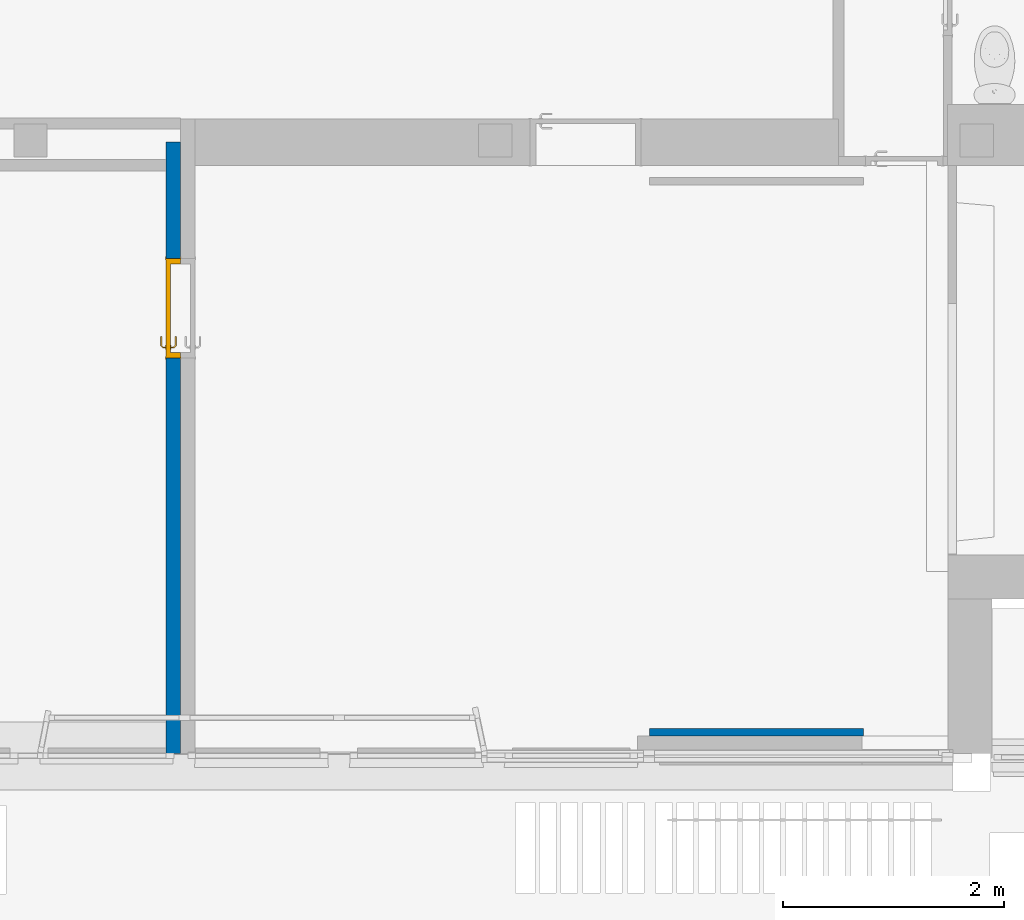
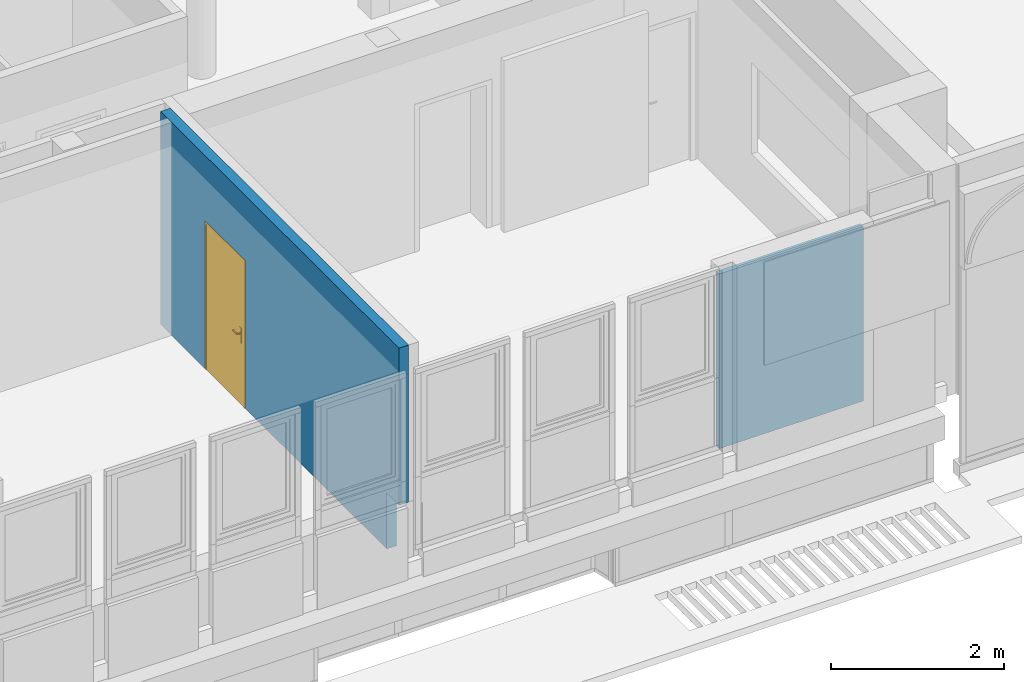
# One storey, part 45 of 97: 2 walls, 1 door, 1 opening.
"""IFC4 building model written with IfcOpenShell, lengths in metres."""

from ifc_helpers import new_model, entity, si_unit, converted_unit, derived_unit, direction, frame, origin, place, context, subcontext, project, spatial, indexed_curve, outline, extrude, polygons, source, transform, mapped, material, material_list, layer, layer_set, constituent, constituent_set, type_object, type_shapes, element, fill, save


model = new_model("IFC4")

# Units and contexts
model_context = context("Model", 3, precision=1e-05, world=origin(), true_north=direction((6.12303176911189e-17, 1.0)))
body_context = subcontext(model_context, "Body", "Model", "MODEL_VIEW")
ifc_project = project(units=[si_unit("LENGTHUNIT", "METRE"), si_unit("AREAUNIT", "SQUARE_METRE"), si_unit("VOLUMEUNIT", "CUBIC_METRE"), converted_unit("PLANEANGLEUNIT", "DEGREE", entity("IfcRatioMeasure", 0.0174532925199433), si_unit("PLANEANGLEUNIT", "RADIAN"), dimensions=[0, 0, 0, 0, 0, 0, 0]), si_unit("MASSUNIT", "GRAM", prefix="KILO"), derived_unit("MASSDENSITYUNIT", [(si_unit("MASSUNIT", "GRAM", prefix="KILO"), 1), (si_unit("LENGTHUNIT", "METRE"), -3)]), derived_unit("MOMENTOFINERTIAUNIT", [(si_unit("LENGTHUNIT", "METRE"), 4)]), si_unit("TIMEUNIT", "SECOND"), si_unit("FREQUENCYUNIT", "HERTZ"), si_unit("THERMODYNAMICTEMPERATUREUNIT", "DEGREE_CELSIUS"), derived_unit("THERMALTRANSMITTANCEUNIT", [(si_unit("MASSUNIT", "GRAM", prefix="KILO"), 1), (si_unit("THERMODYNAMICTEMPERATUREUNIT", "KELVIN"), -1), (si_unit("TIMEUNIT", "SECOND"), -3)]), derived_unit("VOLUMETRICFLOWRATEUNIT", [(si_unit("LENGTHUNIT", "METRE"), 3), (si_unit("TIMEUNIT", "SECOND"), -1)]), si_unit("ELECTRICCURRENTUNIT", "AMPERE"), si_unit("ELECTRICVOLTAGEUNIT", "VOLT"), si_unit("POWERUNIT", "WATT"), si_unit("FORCEUNIT", "NEWTON", prefix="KILO"), si_unit("ILLUMINANCEUNIT", "LUX"), si_unit("LUMINOUSFLUXUNIT", "LUMEN"), si_unit("LUMINOUSINTENSITYUNIT", "CANDELA"), derived_unit("USERDEFINED", [(si_unit("MASSUNIT", "GRAM", prefix="KILO"), -1), (si_unit("LENGTHUNIT", "METRE"), -2), (si_unit("TIMEUNIT", "SECOND"), 3), (si_unit("LUMINOUSFLUXUNIT", "LUMEN"), 1)]), derived_unit("LINEARVELOCITYUNIT", [(si_unit("LENGTHUNIT", "METRE"), 1), (si_unit("TIMEUNIT", "SECOND"), -1)]), si_unit("PRESSUREUNIT", "PASCAL"), derived_unit("USERDEFINED", [(si_unit("LENGTHUNIT", "METRE"), -2), (si_unit("MASSUNIT", "GRAM", prefix="KILO"), 1), (si_unit("TIMEUNIT", "SECOND"), -2)]), derived_unit("LINEARFORCEUNIT", [(si_unit("MASSUNIT", "GRAM", prefix="KILO"), 1), (si_unit("LENGTHUNIT", "METRE"), 1), (si_unit("TIMEUNIT", "SECOND"), -2), (si_unit("LENGTHUNIT", "METRE"), -1)]), derived_unit("PLANARFORCEUNIT", [(si_unit("MASSUNIT", "GRAM", prefix="KILO"), 1), (si_unit("LENGTHUNIT", "METRE"), 1), (si_unit("TIMEUNIT", "SECOND"), -2), (si_unit("LENGTHUNIT", "METRE"), -2)])], contexts=[model_context])

# Site, building, storey
site_placement = place(None, origin())
site = spatial("IfcSite", under=ifc_project, at=site_placement, Name="Default", CompositionType="ELEMENT")
building_placement = place(site_placement, origin())
building = spatial("IfcBuilding", under=site, at=building_placement, Name="HOTEL CONSULAIRE BOULOGNE SUR MER", CompositionType="ELEMENT")
storey_placement = place(building_placement, frame((0.0, 0.0, 3.62152697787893)))
storey = spatial("IfcBuildingStorey", under=building, at=storey_placement, Name="Niveau 1", CompositionType="ELEMENT", Elevation=3.62152697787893)

# Wall, opening, door
ifc_material_1 = material(Name="Mur par défaut", Category="Divers")
ifc_layer_1 = layer(ifc_material_1, 0.13, Name="Mur par défaut", Category="Divers")
ifc_layer_set_1 = layer_set([ifc_layer_1], Name="Mur de base:Générique - Int. 130 mm")
wall_type_1 = type_object("IfcWallType", Name="Mur de base:Générique - Int. 130 mm", PredefinedType="NOTDEFINED", material=ifc_layer_set_1)
wall_1_placement = place(storey_placement, frame((4.2635800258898, -24.0327611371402, 0.0), z_axis=(0.0, 0.0, 1.0), x_axis=(0.0, -1.0, 0.0)))
wall_1 = element("IfcWall", 1, at=wall_1_placement, inside=storey, type_object=wall_type_1, material=ifc_layer_set_1, Name="Mur de base:Générique - Int. 130 mm", ObjectType="Mur de base:Générique - Int. 130 mm", PredefinedType="NOTDEFINED", context=body_context, shape_type="Tessellation", body=[
    polygons([(1.049, -0.0650000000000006, 0.0), (0.0, -0.0650000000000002, 0.0), (0.0, 0.0649999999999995, 0.0), (1.049, 0.0649999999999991, 0.0), (5.52130596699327, -0.0650000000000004, 3.01021454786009), (0.257930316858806, -0.0650000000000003, 3.01021454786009), (0.157930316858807, -0.0650000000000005, 3.01021454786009), (0.0, -0.0650000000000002, 3.01021454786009), (1.049, -0.0650000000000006, 2.075), (1.949, -0.0650000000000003, 2.075), (1.949, -0.0650000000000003, 0.0), (5.23734358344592, -0.0650000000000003, 0.0), (5.23734358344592, -0.0650000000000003, 0.791612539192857), (5.52130596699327, -0.0650000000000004, 0.791612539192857), (0.0, 0.0650000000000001, 3.01021454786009), (5.52130596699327, 0.0649999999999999, 3.01021454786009), (5.52130596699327, 0.0649999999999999, 0.791612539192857), (5.23734358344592, 0.0649999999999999, 0.791612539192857), (5.23734358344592, 0.0649999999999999, 0.0), (1.949, 0.065, 0.0), (1.949, 0.065, 2.075), (1.049, 0.0649999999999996, 2.075)], [[[3, 4, 1, 2]], [[10, 9, 22, 21]], [[14, 13, 18, 17]], [[11, 20, 19, 12]], [[2, 1, 9, 10, 11, 12, 13, 14, 5, 6, 7, 8]], [[16, 17, 18, 19, 20, 21, 22, 4, 3, 15]], [[9, 1, 4, 22]], [[13, 12, 19, 18]], [[5, 14, 17, 16]], [[11, 10, 21, 20]], [[2, 8, 15, 3]], [[8, 7, 6, 5, 16, 15]]], closed=True),
])
opening_placement = place(wall_1_placement, frame((1.949, 0.0649999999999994, 0.0)))
opening = element("IfcOpeningElement", 2, at=opening_placement, cuts=wall_1, Name="Int. Simple:PP (0.83m x 2.04m):1", ObjectType="Opening", PredefinedType="OPENING", context=body_context, shape_type="SweptSolid", body=[
    extrude(outline(indexed_curve([(0.0, 0.9), (0.0, 0.0), (2.075, 0.0), (2.075, 0.9), (0.0, 0.9)], self_intersect=False)), frame((0.0, 0.0, 0.0), z_axis=(0.0, -1.0, 0.0), x_axis=(0.0, 0.0, 1.0)), (0.0, 0.0, 1.0), 0.13),
])
ifc_material_2 = material(Name="Finition Peinture - Blanc satiné", Category="Peinture")
ifc_constituent_1 = constituent(ifc_material_2, Name="Finition Peinture - Blanc satiné", Category="Matériaux")
ifc_material_3 = material(Name="Bois - Panneau de porte", Category="Bois")
ifc_constituent_2 = constituent(ifc_material_3, Name="Bois - Panneau de porte", Category="Matériaux")
ifc_material_4 = material(Name="Bois - Cadre de porte", Category="Bois")
ifc_constituent_3 = constituent(ifc_material_4, Name="Bois - Cadre de porte", Category="Matériaux")
ifc_constituent_set = constituent_set(constituents=[ifc_constituent_1, ifc_constituent_2, ifc_constituent_3], Name="MaterialConstituentSet")
ifc_material_list = material_list([ifc_material_3, ifc_material_2, ifc_material_4, ifc_material_4])
door_type = type_object("IfcDoorType", Name="Int. Simple:PP (0.83m x 2.04m)", OperationType="NOTDEFINED", PredefinedType="DOOR", material=ifc_material_list)
shared_shape = source(origin(), body_context, "Body", "Tessellation", [
    polygons([(0.895000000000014, -0.00500000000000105, 0.870000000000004), (0.895000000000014, -0.00500000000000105, 1.08), (0.885352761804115, -0.00500000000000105, 1.08399601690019), (0.875000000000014, -0.00500000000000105, 1.08535898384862), (0.864647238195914, -0.00500000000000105, 1.08399601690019), (0.855000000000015, -0.00500000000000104, 1.08), (0.855000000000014, -0.00500000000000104, 0.870000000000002), (0.864647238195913, -0.00500000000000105, 0.866003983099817), (0.875000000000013, -0.00500000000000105, 0.86464101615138), (0.885352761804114, -0.00500000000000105, 0.866003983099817), (0.895000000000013, -1.05748743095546e-15, 0.870000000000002), (0.885352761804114, -1.05748743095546e-15, 0.866003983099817), (0.875000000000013, -1.04902753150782e-15, 0.86464101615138), (0.864647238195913, -1.04902753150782e-15, 0.866003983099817), (0.855000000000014, -1.04056763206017e-15, 0.870000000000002), (0.855000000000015, -1.04056763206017e-15, 1.08), (0.864647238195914, -1.04902753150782e-15, 1.08399601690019), (0.875000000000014, -1.04902753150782e-15, 1.08535898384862), (0.885352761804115, -1.05748743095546e-15, 1.08399601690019), (0.895000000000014, -1.05748743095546e-15, 1.08)], [[[1, 2, 3, 4, 5, 6, 7, 8, 9, 10]], [[20, 11, 12, 13, 14, 15, 16, 17, 18, 19]], [[10, 12, 11, 1]], [[9, 13, 12, 10]], [[8, 14, 13, 9]], [[8, 7, 15, 14]], [[15, 7, 6, 16]], [[5, 17, 16, 6]], [[4, 18, 17, 5]], [[3, 19, 18, 4]], [[3, 2, 20, 19]], [[11, 20, 2, 1]]], closed=True),
    polygons([(0.855000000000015, 0.0399999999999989, 1.08), (0.855000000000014, 0.0399999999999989, 0.870000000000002), (0.864647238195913, 0.0399999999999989, 0.866003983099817), (0.875000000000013, 0.0399999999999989, 0.86464101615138), (0.885352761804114, 0.0399999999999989, 0.866003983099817), (0.895000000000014, 0.0399999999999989, 0.870000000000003), (0.895000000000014, 0.0399999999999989, 1.08), (0.885352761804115, 0.0399999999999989, 1.08399601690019), (0.875000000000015, 0.0399999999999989, 1.08535898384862), (0.864647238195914, 0.0399999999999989, 1.08399601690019), (0.855000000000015, 0.0449999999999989, 1.08), (0.864647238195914, 0.0449999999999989, 1.08399601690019), (0.875000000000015, 0.0449999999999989, 1.08535898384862), (0.885352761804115, 0.0449999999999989, 1.08399601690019), (0.895000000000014, 0.0449999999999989, 1.08), (0.895000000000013, 0.0449999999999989, 0.870000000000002), (0.885352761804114, 0.0449999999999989, 0.866003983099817), (0.875000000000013, 0.0449999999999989, 0.86464101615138), (0.864647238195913, 0.0449999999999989, 0.866003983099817), (0.855000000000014, 0.0449999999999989, 0.870000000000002)], [[[6, 7, 8, 9, 10, 1, 2, 3, 4, 5]], [[13, 14, 15, 16, 17, 18, 19, 20, 11, 12]], [[10, 12, 11, 1]], [[9, 13, 12, 10]], [[8, 14, 13, 9]], [[8, 7, 15, 14]], [[16, 15, 7, 6]], [[5, 17, 16, 6]], [[4, 18, 17, 5]], [[3, 19, 18, 4]], [[3, 2, 20, 19]], [[20, 2, 1, 11]]], closed=True),
    polygons([(0.881000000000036, -0.00500000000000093, 1.00699999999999), (0.881000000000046, -0.00500000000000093, 0.992999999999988), (0.877025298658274, -0.00500000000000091, 0.99221955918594), (0.872974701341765, -0.00500000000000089, 0.992219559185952), (0.868999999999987, -0.00500000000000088, 0.993000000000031), (0.868999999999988, -0.00500000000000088, 1.007), (0.872974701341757, -0.00500000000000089, 1.00778044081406), (0.877025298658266, -0.00500000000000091, 1.00778044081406), (0.868999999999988, -0.0276803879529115, 1.007), (0.872974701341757, -0.0293267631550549, 1.00778044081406), (0.877025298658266, -0.0310045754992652, 1.00778044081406), (0.881000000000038, -0.0326509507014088, 1.007), (0.868999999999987, -0.0276803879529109, 0.993000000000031), (0.881000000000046, -0.0326509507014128, 0.992999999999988), (0.877025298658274, -0.0310045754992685, 0.99221955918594), (0.872974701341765, -0.0293267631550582, 0.992219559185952), (0.85765222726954, -0.0390281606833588, 1.007), (0.859298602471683, -0.0430028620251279, 1.00778044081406), (0.860976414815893, -0.0470534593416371, 1.00778044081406), (0.862622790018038, -0.0510281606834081, 1.007), (0.857652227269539, -0.0390281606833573, 0.993000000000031), (0.862622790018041, -0.0510281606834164, 0.992999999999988), (0.860976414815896, -0.0470534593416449, 0.99221955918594), (0.859298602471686, -0.0430028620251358, 0.992219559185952), (0.774981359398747, -0.0510281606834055, 1.007), (0.774981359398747, -0.0470534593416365, 1.00778044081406), (0.774981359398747, -0.0430028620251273, 1.00778044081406), (0.774981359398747, -0.0390281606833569, 1.00699999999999), (0.774981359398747, -0.0390281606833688, 0.993000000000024), (0.774981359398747, -0.0430028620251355, 0.992219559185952), (0.774981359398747, -0.0470534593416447, 0.99221955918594), (0.774981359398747, -0.0510281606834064, 0.992999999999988), (0.822692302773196, -0.051028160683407, 1.007), (0.81713998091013, -0.045028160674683, 1.0078786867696), (0.816316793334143, -0.039028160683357, 1.007), (0.822692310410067, -0.0510281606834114, 0.992999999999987), (0.817139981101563, -0.0450281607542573, 0.992121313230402), (0.816316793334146, -0.0390281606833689, 0.993000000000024)], [[[7, 8, 1, 2, 3, 4, 5, 6]], [[17, 21, 38, 29, 28, 35]], [[1, 8, 11, 12]], [[8, 7, 10, 18, 19, 11]], [[7, 6, 9, 10]], [[13, 9, 6, 5]], [[25, 26, 27, 28, 29, 30, 31, 32]], [[4, 16, 13, 5]], [[4, 3, 15, 23, 24, 16]], [[2, 14, 15, 3]], [[12, 14, 2, 1]], [[12, 11, 19, 20]], [[10, 9, 17, 18]], [[21, 17, 9, 13]], [[13, 16, 24, 21]], [[15, 14, 22, 23]], [[20, 22, 14, 12]], [[34, 26, 33]], [[33, 26, 25]], [[33, 20, 19]], [[18, 35, 34]], [[35, 18, 17]], [[28, 27, 35]], [[34, 27, 26]], [[34, 35, 27]], [[34, 33, 19]], [[18, 34, 19]], [[37, 30, 38]], [[31, 37, 36]], [[24, 38, 21]], [[30, 29, 38]], [[31, 36, 32]], [[36, 23, 22]], [[37, 23, 36]], [[37, 24, 23]], [[37, 38, 24]], [[30, 37, 31]], [[22, 20, 33, 25, 32, 36]]], closed=True),
    polygons([(0.868999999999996, 0.0449999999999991, 0.993000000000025), (0.872974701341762, 0.0449999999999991, 0.992219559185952), (0.877025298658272, 0.0449999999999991, 0.99221955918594), (0.881000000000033, 0.0449999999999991, 0.992999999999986), (0.881000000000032, 0.0449999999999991, 1.007), (0.877025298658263, 0.0449999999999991, 1.00778044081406), (0.872974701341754, 0.0449999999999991, 1.00778044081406), (0.868999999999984, 0.0449999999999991, 1.007), (0.868999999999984, 0.067485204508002, 1.007), (0.868999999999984, 0.0674852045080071, 0.993000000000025), (0.881000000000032, 0.0724557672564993, 1.007), (0.877025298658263, 0.070809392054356, 1.00778044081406), (0.872974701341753, 0.0691315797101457, 1.00778044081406), (0.881000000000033, 0.0724557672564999, 0.992999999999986), (0.872974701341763, 0.0691315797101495, 0.992219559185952), (0.877025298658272, 0.0708093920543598, 0.99221955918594), (0.857514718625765, 0.0789704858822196, 1.007), (0.857514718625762, 0.0789704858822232, 0.993000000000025), (0.862485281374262, 0.0909704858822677, 1.007), (0.860838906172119, 0.0869957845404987, 1.00778044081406), (0.859161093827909, 0.0829451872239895, 1.00778044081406), (0.862485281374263, 0.0909704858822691, 0.992999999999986), (0.859161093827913, 0.0829451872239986, 0.992219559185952), (0.860838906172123, 0.0869957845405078, 0.99221955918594), (0.77495421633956, 0.0789704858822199, 0.993000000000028), (0.77495421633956, 0.0789704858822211, 1.007), (0.77495421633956, 0.0829451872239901, 1.00778044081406), (0.77495421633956, 0.0869957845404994, 1.00778044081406), (0.77495421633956, 0.0909704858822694, 1.007), (0.77495421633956, 0.0909704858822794, 0.992999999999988), (0.77495421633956, 0.086995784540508, 0.99221955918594), (0.77495421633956, 0.0829451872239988, 0.992219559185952), (0.822554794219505, 0.0909704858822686, 1.007), (0.817057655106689, 0.0849704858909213, 1.0078786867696), (0.816234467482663, 0.0789704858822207, 1.007), (0.822554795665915, 0.0909704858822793, 0.992999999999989), (0.817057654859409, 0.0849704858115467, 0.992121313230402), (0.816234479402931, 0.0789704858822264, 0.993000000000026)], [[[2, 3, 4, 5, 6, 7, 8, 1]], [[18, 17, 35, 26, 25, 38]], [[9, 10, 1, 8]], [[27, 28, 29, 30, 31, 32, 25, 26]], [[7, 13, 9, 8]], [[7, 6, 12, 20, 21, 13]], [[5, 11, 12, 6]], [[11, 5, 4, 14]], [[4, 3, 16, 14]], [[3, 2, 15, 23, 24, 16]], [[2, 1, 10, 15]], [[17, 18, 10, 9]], [[9, 13, 21, 17]], [[11, 19, 20, 12]], [[22, 19, 11, 14]], [[14, 16, 24, 22]], [[15, 10, 18, 23]], [[34, 27, 35]], [[28, 34, 33]], [[21, 35, 17]], [[27, 26, 35]], [[28, 33, 29]], [[33, 20, 19]], [[34, 20, 33]], [[34, 21, 20]], [[34, 35, 21]], [[27, 34, 28]], [[19, 22, 36, 30, 29, 33]], [[37, 31, 36]], [[36, 31, 30]], [[36, 22, 24]], [[23, 38, 37]], [[38, 23, 18]], [[25, 32, 38]], [[37, 32, 31]], [[37, 38, 32]], [[37, 36, 24]], [[23, 37, 24]]], closed=True),
    polygons([(0.935000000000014, 0.04, 2.04), (0.935000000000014, 0.04, 0.0), (0.105000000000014, 0.04, 0.0), (0.105000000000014, 0.04, 2.04), (0.935000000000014, 4.22994972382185e-17, 2.04), (0.105000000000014, 4.22994972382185e-17, 2.04), (0.105000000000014, 4.22994972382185e-17, 0.0), (0.935000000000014, 4.22994972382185e-17, 0.0)], [[[3, 4, 1, 2]], [[5, 6, 7, 8]], [[5, 1, 4, 6]], [[6, 4, 3, 7]], [[8, 7, 3, 2]], [[8, 2, 1, 5]]], closed=True),
    polygons([(0.970000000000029, 1.69197988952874e-17, 0.0), (0.935000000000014, 1.69197988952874e-17, 0.0), (0.935000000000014, 0.0400000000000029, 0.0), (0.920000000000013, 0.0400000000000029, 0.0), (0.920000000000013, 0.130000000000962, 0.0), (0.970000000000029, 0.130000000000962, 0.0), (0.970000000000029, 0.130000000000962, 2.07500000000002), (0.970000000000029, 1.69197988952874e-17, 2.07500000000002), (0.920000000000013, 0.130000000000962, 2.025), (0.120000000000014, 0.130000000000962, 2.025), (0.120000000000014, 0.130000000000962, 6.02669015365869e-24), (0.0699999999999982, 0.130000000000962, 9.23443718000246e-25), (0.0699999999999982, 0.130000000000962, 2.07500000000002), (0.920000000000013, 0.0400000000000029, 2.025), (0.935000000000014, 0.0400000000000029, 2.04), (0.105000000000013, 0.0400000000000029, 2.04), (0.105000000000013, 0.0400000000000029, 1.51399294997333e-24), (0.120000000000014, 0.0400000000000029, 1.99209609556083e-25), (0.120000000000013, 0.0400000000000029, 2.025), (0.935000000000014, 1.69197988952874e-17, 2.04), (0.0699999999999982, 1.69197988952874e-17, 2.07500000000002), (0.0699999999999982, 1.69197988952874e-17, 1.81925185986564e-24), (0.105000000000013, 1.69197988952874e-17, 3.40121094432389e-24), (0.105000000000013, 1.69197988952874e-17, 2.04)], [[[5, 6, 1, 2, 3, 4]], [[17, 23, 22, 12, 11, 18]], [[19, 10, 9, 14]], [[24, 16, 15, 20]], [[7, 8, 1, 6]], [[11, 10, 19, 18]], [[23, 17, 16, 24]], [[9, 10, 11, 12, 13, 7, 6, 5]], [[9, 5, 4, 14]], [[20, 15, 3, 2]], [[12, 22, 21, 13]], [[19, 14, 4, 3, 15, 16, 17, 18]], [[24, 20, 2, 1, 8, 21, 22, 23]], [[13, 21, 8, 7]]], closed=True),
    polygons([(0.955000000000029, 0.130000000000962, 1.35358391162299e-16), (0.955000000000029, 0.135000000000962, 1.35358391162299e-16), (0.985000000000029, 0.135000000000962, 1.35358391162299e-16), (0.985000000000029, 0.130000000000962, 1.35358391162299e-16), (0.985000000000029, 0.130000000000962, 2.09000000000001), (0.0550000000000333, 0.130000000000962, 2.09000000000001), (0.0550000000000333, 0.130000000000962, -5.44393448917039e-24), (0.0850000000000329, 0.130000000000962, 5.09144898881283e-24), (0.0850000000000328, 0.130000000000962, 2.06000000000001), (0.955000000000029, 0.130000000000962, 2.06000000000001), (0.985000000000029, 0.135000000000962, 2.09000000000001), (0.955000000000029, 0.135000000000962, 2.06000000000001), (0.0850000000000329, 0.135000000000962, 2.06000000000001), (0.0850000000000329, 0.135000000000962, -1.89153776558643e-24), (0.055000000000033, 0.135000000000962, 5.03766794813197e-24), (0.0550000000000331, 0.135000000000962, 2.09000000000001)], [[[2, 3, 4, 1]], [[7, 15, 14, 8]], [[13, 12, 10, 9]], [[9, 10, 1, 4, 5, 6, 7, 8]], [[11, 5, 4, 3]], [[8, 14, 13, 9]], [[12, 13, 14, 15, 16, 11, 3, 2]], [[10, 12, 2, 1]], [[15, 7, 6, 16]], [[16, 6, 5, 11]]], closed=True),
    polygons([(0.955000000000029, -0.005, 1.35358391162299e-16), (0.955000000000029, 1.69197988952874e-17, 1.35358391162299e-16), (0.985000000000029, 1.69197988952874e-17, 1.35358391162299e-16), (0.985000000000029, -0.005, 1.35358391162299e-16), (0.0850000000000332, -0.005, -1.35358391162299e-16), (0.0550000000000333, -0.005, -1.35358391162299e-16), (0.055000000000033, 1.69197988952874e-17, -1.35358391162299e-16), (0.0850000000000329, 1.69197988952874e-17, -1.35358391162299e-16), (0.985000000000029, -0.005, 2.09000000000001), (0.0550000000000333, -0.005, 2.09000000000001), (0.0850000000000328, -0.005, 2.06000000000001), (0.955000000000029, -0.005, 2.06000000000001), (0.985000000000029, 1.69197988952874e-17, 2.09000000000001), (0.955000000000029, 1.69197988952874e-17, 2.06000000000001), (0.0850000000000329, 1.69197988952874e-17, 2.06000000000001), (0.0550000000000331, 1.69197988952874e-17, 2.09000000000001)], [[[2, 3, 4, 1]], [[6, 7, 8, 5]], [[15, 14, 12, 11]], [[11, 12, 1, 4, 9, 10, 6, 5]], [[13, 9, 4, 3]], [[5, 8, 15, 11]], [[14, 15, 8, 7, 16, 13, 3, 2]], [[12, 14, 2, 1]], [[7, 6, 10, 16]], [[16, 10, 9, 13]]], closed=True),
])
type_shapes(door_type, [shared_shape])
door_placement = place(opening_placement, frame((-0.97000000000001, -0.130000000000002, 0.0)))
door = element("IfcDoor", 3, at=door_placement, inside=storey, type_object=door_type, material=ifc_constituent_set, Name="Int. Simple:PP (0.83m x 2.04m)", ObjectType="Int. Simple:PP (0.83m x 2.04m)", OperationType="NOTDEFINED", OverallHeight=2.075, OverallWidth=0.899999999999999, PredefinedType="DOOR", context=body_context, shape_type="MappedRepresentation", body=[
    mapped(shared_shape, transform((0.0, 0.0, 0.0), scale=1.0)),
])
fill(opening, door)

# Wall
ifc_material_5 = material(Name="Résineux, bois de construction", Category="Bois")
ifc_layer_2 = layer(ifc_material_5, 0.07, Name="Résineux, bois de construction", Category="Bois")
ifc_layer_set_2 = layer_set([ifc_layer_2], Name="Mur de base:Générique - Int. 70 mm bois")
wall_type_2 = type_object("IfcWallType", Name="Mur de base:Générique - Int. 70 mm bois", PredefinedType="NOTDEFINED", material=ifc_layer_set_2)
wall_2_placement = place(storey_placement, frame((10.4977347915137, -29.3633514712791, -0.0349999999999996), z_axis=(0.0, 0.0, 1.0), x_axis=(-1.0, 0.0, 0.0)))
element("IfcWall", 4, at=wall_2_placement, inside=storey, type_object=wall_type_2, material=ifc_layer_set_2, Name="Mur de base:Générique - Int. 70 mm bois", ObjectType="Mur de base:Générique - Int. 70 mm bois", PredefinedType="NOTDEFINED", context=body_context, shape_type="SweptSolid", body=[
    extrude(outline(indexed_curve([(1.932, 0.0350000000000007), (-7.84563540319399e-17, 0.0350000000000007), (7.84563540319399e-17, -0.0350000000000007), (1.932, -0.0350000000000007), (1.932, 0.0350000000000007)], self_intersect=False)), origin(), (0.0, 0.0, 1.0), 2.46741646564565),
])

save(model, "model.ifc")
